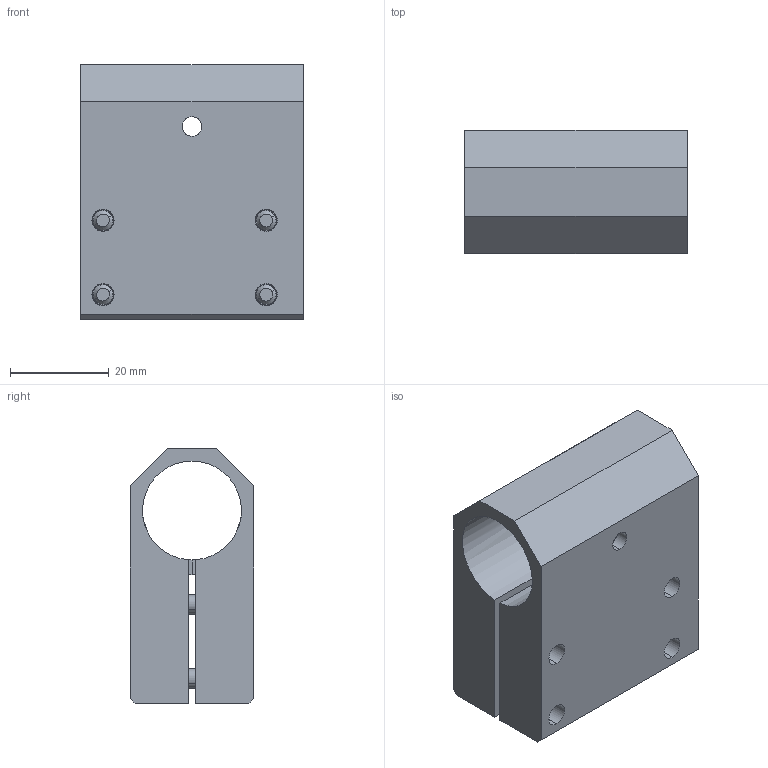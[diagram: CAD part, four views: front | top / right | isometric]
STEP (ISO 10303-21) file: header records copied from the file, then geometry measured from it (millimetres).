
FILE_DESCRIPTION (( 'STEP AP214' ), '1' );
FILE_NAME ('SMBF1-2020.STEP', '2019-11-06T06:19:10', ( '微软用户' ), ( '微软中国' ), 'SwSTEP 2.0', 'SolidWorks 2016', '' );
FILE_SCHEMA (( 'AUTOMOTIVE_DESIGN' ));
Length unit declared in the file: millimetre
Products named in the file (1): SMBF1-2020
Bounding box: 45 x 25 x 51.5 mm (x, y, z)
Volume: 31149.7 mm3; surface area: 17098.4 mm2
Topology: 9 solids, 9 shells, 912 faces, 2631 edges, 1736 vertices
Faces by surface type: plane 828, cylinder 68, cone 8, bspline 8
Entity records: 40804 total; most frequent: CARTESIAN_POINT 5893, DIRECTION 5288, ORIENTED_EDGE 5258, EDGE_CURVE 2629, AXIS2_PLACEMENT_3D 1778, VERTEX_POINT 1735, LINE 1732, VECTOR 1732
